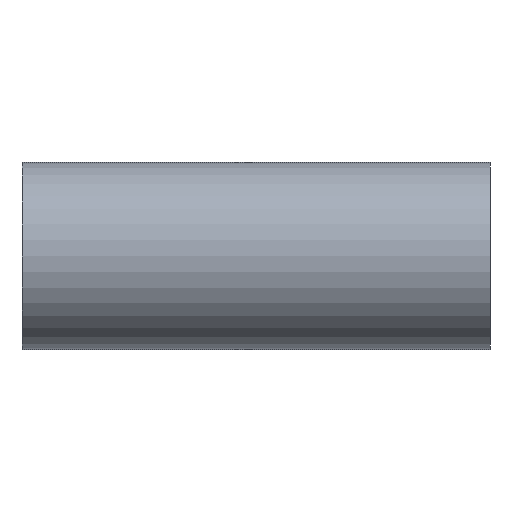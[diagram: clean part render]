
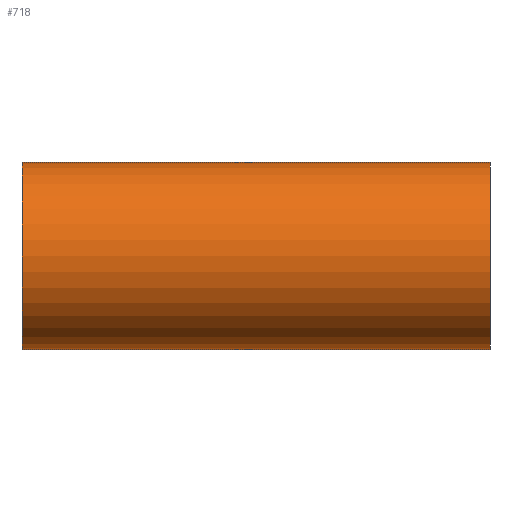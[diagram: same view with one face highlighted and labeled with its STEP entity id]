
A CAD part, front view. The second image highlights one B-rep face of the part: STEP entity #718.
In plain terms, the highlighted cylindrical face has radius 31.75 mm (diameter 63.5 mm), a partial arc.
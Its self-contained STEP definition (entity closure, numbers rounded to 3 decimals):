
#55 = VERTEX_POINT ( 'NONE', #93 ) ;
#82 = ORIENTED_EDGE ( 'NONE', *, *, #1111, .T. ) ;
#84 = VERTEX_POINT ( 'NONE', #1538 ) ;
#93 = CARTESIAN_POINT ( 'NONE',  ( -79.4, 0., 31.75 ) ) ;
#109 = VERTEX_POINT ( 'NONE', #1802 ) ;
#114 = EDGE_CURVE ( 'NONE', #84, #109, #1970, .T. ) ;
#143 = CARTESIAN_POINT ( 'NONE',  ( -79.4, 0., -31.75 ) ) ;
#229 = DIRECTION ( 'NONE',  ( 1., 0., 0. ) ) ;
#249 = CARTESIAN_POINT ( 'NONE',  ( -79.4, 0., -31.75 ) ) ;
#278 = EDGE_CURVE ( 'NONE', #55, #109, #448, .T. ) ;
#365 = FACE_OUTER_BOUND ( 'NONE', #603, .T. ) ;
#389 = VECTOR ( 'NONE', #1856, 1000. ) ;
#394 = DIRECTION ( 'NONE',  ( 1., 0., 0. ) ) ;
#448 = LINE ( 'NONE', #700, #1267 ) ;
#592 = EDGE_CURVE ( 'NONE', #55, #777, #1998, .T. ) ;
#603 = EDGE_LOOP ( 'NONE', ( #1435, #1990, #82, #1584 ) ) ;
#663 = CARTESIAN_POINT ( 'NONE',  ( -79.4, 0., 0. ) ) ;
#700 = CARTESIAN_POINT ( 'NONE',  ( -79.4, 0., 31.75 ) ) ;
#718 = ADVANCED_FACE ( 'NONE', ( #365 ), #750, .T. ) ;
#750 = CYLINDRICAL_SURFACE ( 'NONE', #911, 31.75 ) ;
#777 = VERTEX_POINT ( 'NONE', #249 ) ;
#810 = LINE ( 'NONE', #143, #389 ) ;
#820 = DIRECTION ( 'NONE',  ( 0., 0., -1. ) ) ;
#911 = AXIS2_PLACEMENT_3D ( 'NONE', #1274, #394, #1482 ) ;
#1111 = EDGE_CURVE ( 'NONE', #777, #84, #810, .T. ) ;
#1267 = VECTOR ( 'NONE', #229, 1000. ) ;
#1274 = CARTESIAN_POINT ( 'NONE',  ( -79.4, 0., 0. ) ) ;
#1369 = DIRECTION ( 'NONE',  ( 0., 0., -1. ) ) ;
#1374 = DIRECTION ( 'NONE',  ( -1., 0., 0. ) ) ;
#1394 = CARTESIAN_POINT ( 'NONE',  ( 79.4, 0., 0. ) ) ;
#1435 = ORIENTED_EDGE ( 'NONE', *, *, #278, .F. ) ;
#1482 = DIRECTION ( 'NONE',  ( 0., 0., -1. ) ) ;
#1538 = CARTESIAN_POINT ( 'NONE',  ( 79.4, 0., -31.75 ) ) ;
#1584 = ORIENTED_EDGE ( 'NONE', *, *, #114, .T. ) ;
#1731 = DIRECTION ( 'NONE',  ( 1., 0., 0. ) ) ;
#1782 = AXIS2_PLACEMENT_3D ( 'NONE', #663, #1731, #820 ) ;
#1802 = CARTESIAN_POINT ( 'NONE',  ( 79.4, 0., 31.75 ) ) ;
#1856 = DIRECTION ( 'NONE',  ( 1., 0., 0. ) ) ;
#1915 = AXIS2_PLACEMENT_3D ( 'NONE', #1394, #1374, #1369 ) ;
#1970 = CIRCLE ( 'NONE', #1915, 31.75 ) ;
#1990 = ORIENTED_EDGE ( 'NONE', *, *, #592, .T. ) ;
#1998 = CIRCLE ( 'NONE', #1782, 31.75 ) ;
